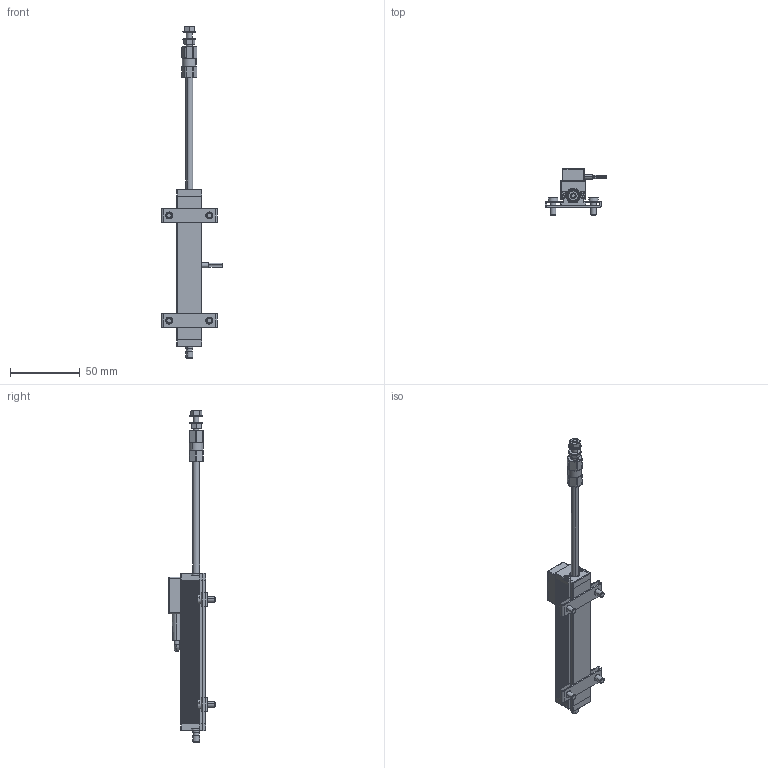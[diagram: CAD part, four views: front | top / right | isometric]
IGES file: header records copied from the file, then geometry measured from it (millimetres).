
Start section: SolidWorks IGES file using analytic representation for surfaces
Global section: file name: E:\Salzinger\I-net_3D\T-Serie_Essentials\T_TS_TR_TRS_-_SLDPRTs\T_075.IGS; native system: SolidWorks 2008; preprocessor: SolidWorks 2008; author: salzinger; date: 081105.110314; units: millimetre
Bounding box: 44.08 x 33.2 x 238 mm (x, y, z)
Surface area: 26547.4 mm2 (no closed solid volume)
Topology: 0 solids, 0 shells, 1154 faces, 11908 edges, 11890 vertices
Faces by surface type: revolution 704, bspline 450
